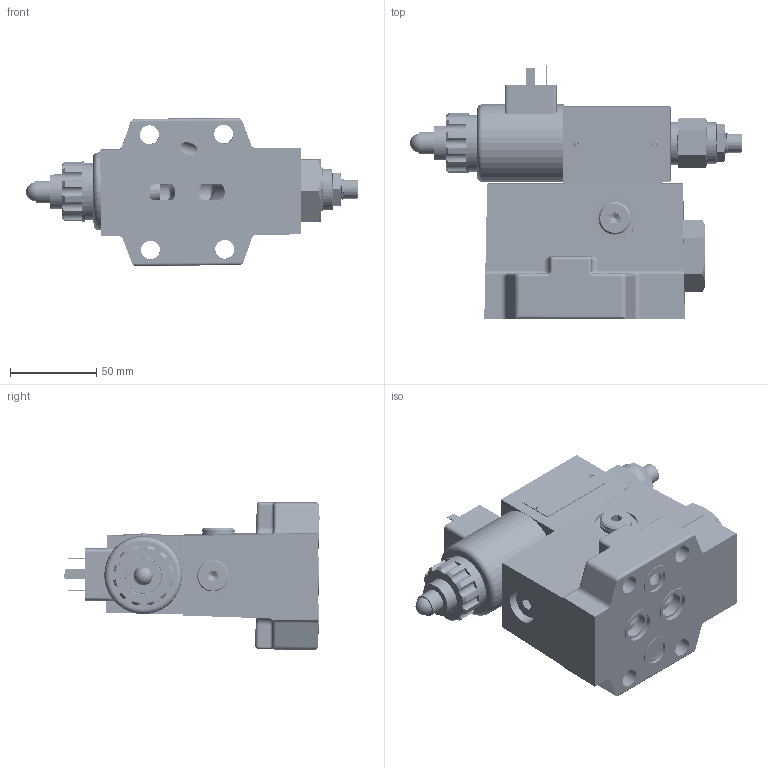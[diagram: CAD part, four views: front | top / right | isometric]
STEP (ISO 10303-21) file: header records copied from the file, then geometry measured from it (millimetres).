
FILE_DESCRIPTION(/* description */ (''),/* implementation_level */ '2;1');
FILE_NAME(/* name */ 'DREM10-6X.stp',/* time_stamp */ '2022-05-18T10:06:28+08:00',/* author */ (''),/* organization */ (''),/* preprocessor_version */ 'ST-DEVELOPER v16.7',/* originating_system */ 'SIEMENS PLM Software NX 12.0',/* authorisation */ '');
FILE_SCHEMA (('AUTOMOTIVE_DESIGN { 1 0 10303 214 3 1 1 1 }'));
Products named in the file (1): DREM10-61
Bounding box: 192.12 x 147.6 x 85.71 mm (x, y, z)
Volume: 652006.8 mm3; surface area: 152019.9 mm2
Topology: 31 solids, 32 shells, 2354 faces, 6381 edges, 4119 vertices
Faces by surface type: cylinder 1622, plane 379, cone 178, bspline 107, torus 64, sphere 4
Entity records: 171012 total; most frequent: CARTESIAN_POINT 117054, ORIENTED_EDGE 12674, DIRECTION 9022, EDGE_CURVE 6337, VERTEX_POINT 4117, AXIS2_PLACEMENT_3D 3379, B_SPLINE_CURVE_WITH_KNOTS 2772, EDGE_LOOP 2514
